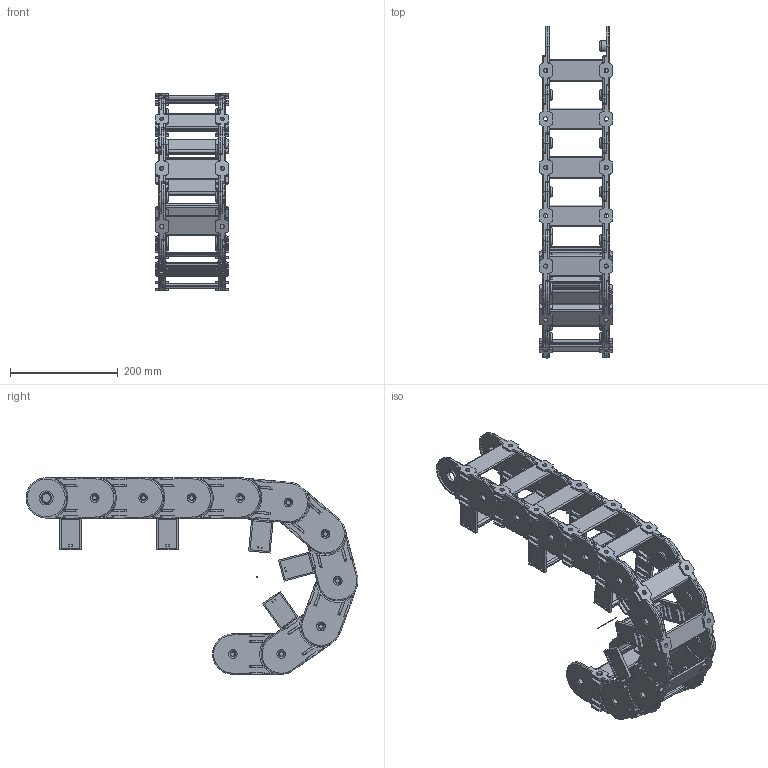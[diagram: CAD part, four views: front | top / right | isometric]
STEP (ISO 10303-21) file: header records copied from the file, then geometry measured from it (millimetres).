
FILE_DESCRIPTION((''),'2;1');
FILE_NAME('C:\Uebbing\TRACE PARTS\PKK\PKK 323\PKK 323 vereinfacht.stp','2013-06-10T10:05:24',('Uebbing'),(''),'Autodesk Inventor 10','Autodesk Inventor 10','');
FILE_SCHEMA(('AUTOMOTIVE_DESIGN { 1 0 10303 214 1 1 1 1 }'));
Length unit declared in the file: millimetre
Products named in the file (7): PKK 323 vereinfacht; PKK320 Glied vereinfacht; Achse; PKK 323 Glied vereinfacht; PKK320 Lasche vereinfacht; PKK 320 Steg vereinfacht; PKK 320 Aufabausteg vereinfacht
Assembly tree (17 placements, depth 3):
  PKK 323 vereinfacht
    PKK320 Glied vereinfacht  x5
    Achse
    PKK 323 Glied vereinfacht  x5
      PKK320 Lasche vereinfacht
      PKK 320 Steg vereinfacht
      PKK 320 Aufabausteg vereinfacht
Bounding box: 136 x 616.1 x 364.79 mm (x, y, z)
Volume: 1909130.8 mm3; surface area: 903725.2 mm2
Topology: 36 solids, 36 shells, 2473 faces, 6414 edges, 4083 vertices
Faces by surface type: plane 1052, cylinder 561, bspline 560, torus 220, sphere 80
Full cylindrical faces by diameter (mm): 1 x1, 8 x30, 12 x20, 20 x20, 20.2 x20, 26 x40, 70 x40
Entity records: 11880 total; most frequent: CARTESIAN_POINT 3288, ORIENTED_EDGE 1726, DIRECTION 1684, EDGE_CURVE 863, VERTEX_POINT 578, AXIS2_PLACEMENT_3D 565, VECTOR 554, LINE 554
